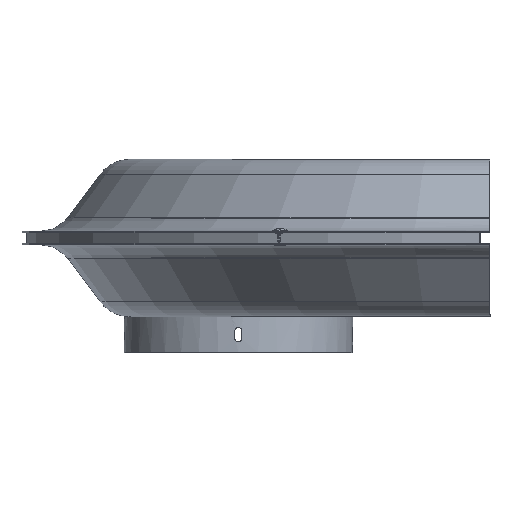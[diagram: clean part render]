
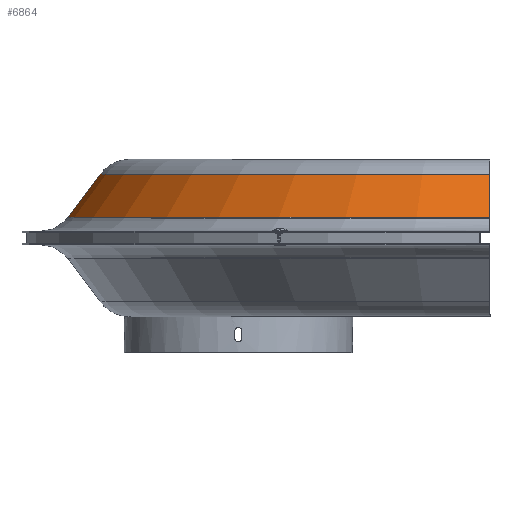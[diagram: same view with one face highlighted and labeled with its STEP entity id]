
A CAD part, left-side view. The second image highlights one B-rep face of the part: STEP entity #6864.
In plain terms, the highlighted conical face has half-angle 36.87 degrees and reference radius 225.575 mm.
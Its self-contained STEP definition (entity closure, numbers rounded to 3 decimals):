
#196=CONICAL_SURFACE('',#7507,225.575,0.644);
#801=FACE_OUTER_BOUND('',#1206,.T.);
#1206=EDGE_LOOP('',(#5177,#5178,#5179,#5180));
#1640=LINE('',#11149,#2062);
#1651=LINE('',#11193,#2073);
#2062=VECTOR('',#8576,10.);
#2073=VECTOR('',#8609,10.);
#2500=CIRCLE('',#7506,234.578);
#2501=CIRCLE('',#7508,216.572);
#2900=VERTEX_POINT('',#11146);
#2901=VERTEX_POINT('',#11148);
#2922=VERTEX_POINT('',#11190);
#2923=VERTEX_POINT('',#11192);
#3692=EDGE_CURVE('',#2900,#2901,#1640,.T.);
#3714=EDGE_CURVE('',#2922,#2923,#1651,.T.);
#3773=EDGE_CURVE('',#2923,#2900,#2500,.T.);
#3774=EDGE_CURVE('',#2922,#2901,#2501,.T.);
#5177=ORIENTED_EDGE('',*,*,#3692,.F.);
#5178=ORIENTED_EDGE('',*,*,#3773,.F.);
#5179=ORIENTED_EDGE('',*,*,#3714,.F.);
#5180=ORIENTED_EDGE('',*,*,#3774,.T.);
#6864=ADVANCED_FACE('',(#801),#196,.T.);
#7506=AXIS2_PLACEMENT_3D('',#11310,#8753,#8754);
#7507=AXIS2_PLACEMENT_3D('',#11311,#8755,#8756);
#7508=AXIS2_PLACEMENT_3D('',#11312,#8757,#8758);
#8576=DIRECTION('',(0.6,-0.8,0.));
#8609=DIRECTION('',(0.6,0.8,0.));
#8753=DIRECTION('center_axis',(0.,1.,0.));
#8754=DIRECTION('ref_axis',(1.,0.,0.));
#8755=DIRECTION('center_axis',(0.,1.,0.));
#8756=DIRECTION('ref_axis',(-1.,0.,0.));
#8757=DIRECTION('center_axis',(0.,1.,0.));
#8758=DIRECTION('ref_axis',(1.,0.,0.));
#11146=CARTESIAN_POINT('',(-153.578,-164.886,0.));
#11148=CARTESIAN_POINT('',(-135.572,-188.894,0.));
#11149=CARTESIAN_POINT('',(-144.575,-176.89,0.));
#11190=CARTESIAN_POINT('',(297.572,-188.894,0.));
#11192=CARTESIAN_POINT('',(315.578,-164.886,0.));
#11193=CARTESIAN_POINT('',(306.575,-176.89,0.));
#11310=CARTESIAN_POINT('Origin',(81.,-164.886,0.));
#11311=CARTESIAN_POINT('Origin',(81.,-176.89,0.));
#11312=CARTESIAN_POINT('Origin',(81.,-188.894,0.));
